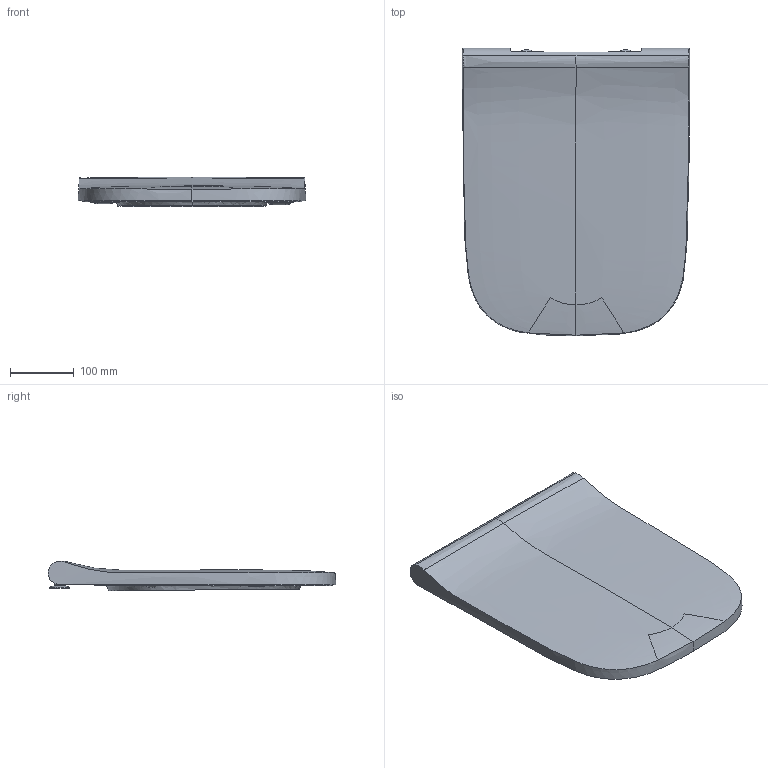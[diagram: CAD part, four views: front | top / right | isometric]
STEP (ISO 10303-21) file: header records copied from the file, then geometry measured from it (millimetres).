
FILE_DESCRIPTION(/* description */ (''),/* implementation_level */ '2;1');
FILE_NAME(/* name */ 'C:\Planerdaten\Export PLA\500.237.01.1\stp\500687.stp',/* time_stamp */ '2020-04-30T09:15:58+02:00',/* author */ ('JANAN'),/* organization */ (''),/* preprocessor_version */ 'ST-DEVELOPER v16.13',/* originating_system */ 'Autodesk Inventor 2018',/* authorisation */ '');
FILE_SCHEMA (('AUTOMOTIVE_DESIGN { 1 0 10303 214 3 1 1 }'));
Products named in the file (1): WC-Sitz Ge+SmyS Bef-o AbsA QRel übDl
Bounding box: 355.99 x 449.5 x 46.27 mm (x, y, z)
Volume: 1416066.9 mm3; surface area: 565857.4 mm2
Topology: 4 solids, 14 shells, 465 faces, 1257 edges, 824 vertices
Faces by surface type: bspline 197, plane 151, cylinder 117
Full cylindrical faces by diameter (mm): 6 x2, 8.6 x2, 8.8 x2, 10 x2, 11.1 x2, 13.5 x4, 14.3 x2, 16 x2, 21.2 x2, 25.5 x1, 32 x2
Entity records: 59248 total; most frequent: CARTESIAN_POINT 48241, ORIENTED_EDGE 2432, DIRECTION 1742, EDGE_CURVE 1216, VERTEX_POINT 818, AXIS2_PLACEMENT_3D 636, EDGE_LOOP 531, LINE 470
